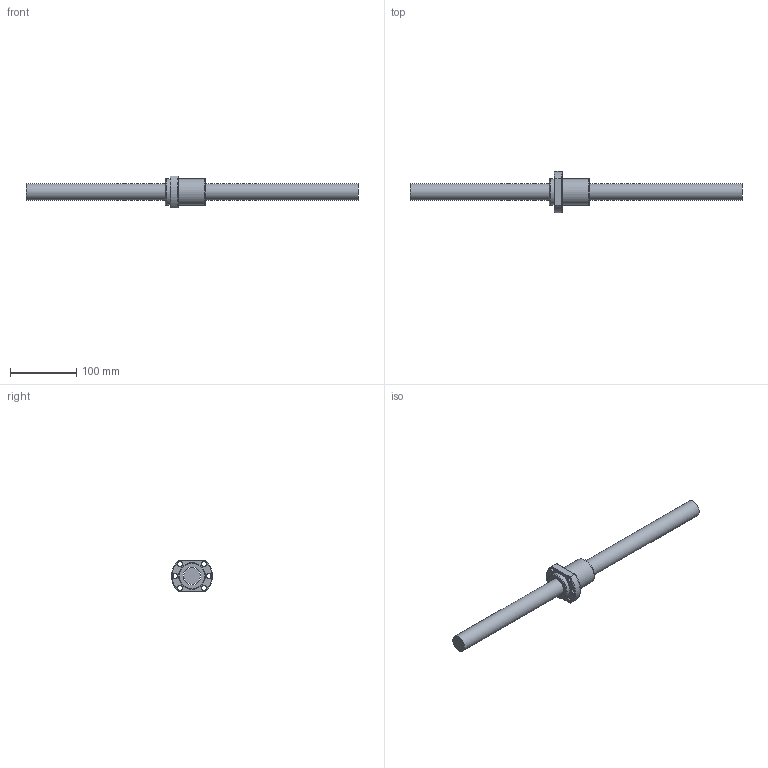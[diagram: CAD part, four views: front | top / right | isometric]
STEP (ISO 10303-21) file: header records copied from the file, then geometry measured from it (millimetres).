
FILE_DESCRIPTION (( 'STEP AP203' ), '1' );
FILE_NAME ('SFA2525-1.8.step', '2024-05-07T07:25:29', ( '' ), ( '' ), 'SwSTEP 2.0', 'SolidWorks 2022', '' );
FILE_SCHEMA (( 'CONFIG_CONTROL_DESIGN' ));
Length unit declared in the file: millimetre
Products named in the file (1): SFA2525-1.8
Bounding box: 500 x 61.8 x 48 mm (x, y, z)
Volume: 299837.4 mm3; surface area: 58763.6 mm2
Topology: 2 solids, 2 shells, 57 faces, 138 edges, 87 vertices
Faces by surface type: cylinder 20, plane 13, cone 13, torus 6, bspline 5
Full cylindrical faces by diameter (mm): 4 x1, 5 x6, 6.6 x6, 25 x1, 27.1 x1, 40 x2
Entity records: 3193 total; most frequent: CARTESIAN_POINT 2106, DIRECTION 198, ORIENTED_EDGE 172, EDGE_LOOP 96, AXIS2_PLACEMENT_3D 91, EDGE_CURVE 86, VERTEX_POINT 70, FACE_OUTER_BOUND 65
